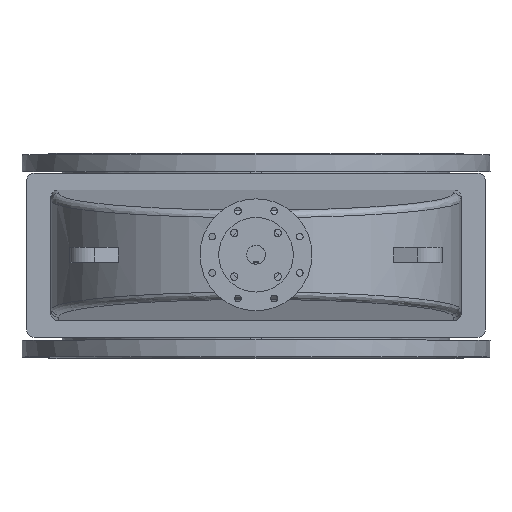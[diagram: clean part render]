
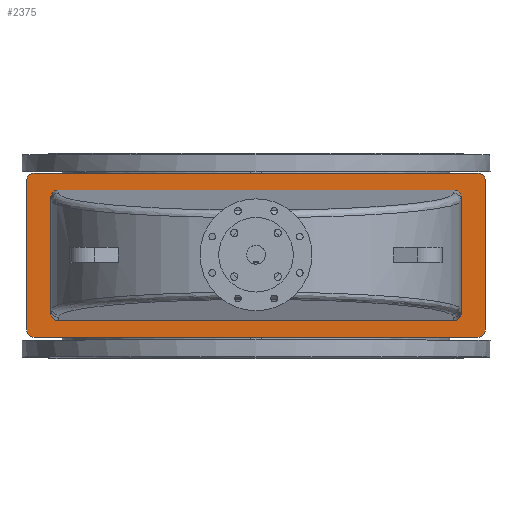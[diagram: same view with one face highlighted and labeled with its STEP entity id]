
A CAD part, top view. The second image highlights one B-rep face of the part: STEP entity #2375.
In plain terms, the highlighted planar face has unit normal (0, 0, 1).
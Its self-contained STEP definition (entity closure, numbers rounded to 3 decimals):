
#2375=ADVANCED_FACE('',(#7181,#7183),#7185,.T.);
#7181=FACE_BOUND('',#7182,.T.);
#7182=EDGE_LOOP('',(#9461,#9462,#9463,#9464,#9465,#9466,#9467,#9468));
#7183=FACE_BOUND('',#7184,.T.);
#7184=EDGE_LOOP('',(#9469,#9470,#9471,#9472,#9473,#9474,#9475,#9476));
#7185=PLANE('',#7186);
#7186=AXIS2_PLACEMENT_3D('',#7187,#7188,#7189);
#7187=CARTESIAN_POINT('',(0.,0.,1116.));
#7188=DIRECTION('',(0.,-0.,1.));
#7189=DIRECTION('',(0.,1.,0.));
#9461=ORIENTED_EDGE('',*,*,#10261,.F.);
#9462=ORIENTED_EDGE('',*,*,#10274,.T.);
#9463=ORIENTED_EDGE('',*,*,#10273,.F.);
#9464=ORIENTED_EDGE('',*,*,#10271,.T.);
#9465=ORIENTED_EDGE('',*,*,#10269,.F.);
#9466=ORIENTED_EDGE('',*,*,#10267,.T.);
#9467=ORIENTED_EDGE('',*,*,#10265,.F.);
#9468=ORIENTED_EDGE('',*,*,#10262,.T.);
#9469=ORIENTED_EDGE('',*,*,#10275,.F.);
#9470=ORIENTED_EDGE('',*,*,#10276,.F.);
#9471=ORIENTED_EDGE('',*,*,#10277,.F.);
#9472=ORIENTED_EDGE('',*,*,#10278,.F.);
#9473=ORIENTED_EDGE('',*,*,#10279,.F.);
#9474=ORIENTED_EDGE('',*,*,#10280,.F.);
#9475=ORIENTED_EDGE('',*,*,#10281,.F.);
#9476=ORIENTED_EDGE('',*,*,#10282,.F.);
#10261=EDGE_CURVE('',#11381,#11379,#11383,.F.);
#10262=EDGE_CURVE('',#11384,#11379,#11385,.T.);
#10265=EDGE_CURVE('',#11384,#11387,#11389,.F.);
#10267=EDGE_CURVE('',#11390,#11387,#11392,.T.);
#10269=EDGE_CURVE('',#11390,#11393,#11395,.F.);
#10271=EDGE_CURVE('',#11396,#11393,#11398,.T.);
#10273=EDGE_CURVE('',#11396,#11399,#11401,.F.);
#10274=EDGE_CURVE('',#11381,#11399,#11402,.T.);
#10275=EDGE_CURVE('',#11403,#11404,#11405,.F.);
#10276=EDGE_CURVE('',#11406,#11403,#11407,.T.);
#10277=EDGE_CURVE('',#11408,#11406,#11409,.T.);
#10278=EDGE_CURVE('',#11410,#11408,#11411,.T.);
#10279=EDGE_CURVE('',#11412,#11410,#11413,.F.);
#10280=EDGE_CURVE('',#11414,#11412,#11415,.T.);
#10281=EDGE_CURVE('',#11416,#11414,#11417,.T.);
#10282=EDGE_CURVE('',#11404,#11416,#11418,.T.);
#11379=VERTEX_POINT('',#14532);
#11381=VERTEX_POINT('',#14536);
#11383=CIRCLE('',#14540,20.);
#11384=VERTEX_POINT('',#14544);
#11385=LINE('',#14545,#14546);
#11387=VERTEX_POINT('',#14551);
#11389=CIRCLE('',#14555,20.);
#11390=VERTEX_POINT('',#14559);
#11392=LINE('',#14563,#14564);
#11393=VERTEX_POINT('',#14566);
#11395=CIRCLE('',#14570,20.);
#11396=VERTEX_POINT('',#14574);
#11398=LINE('',#14578,#14579);
#11399=VERTEX_POINT('',#14581);
#11401=CIRCLE('',#14585,20.);
#11402=LINE('',#14589,#14590);
#11403=VERTEX_POINT('',#14592);
#11404=VERTEX_POINT('',#14593);
#11405=(BOUNDED_CURVE()B_SPLINE_CURVE(3,
(#14594,#14595,#14596,#14597),
.UNSPECIFIED.,.F.,.F.)B_SPLINE_CURVE_WITH_KNOTS((4,4),
(0.,1.),
.UNSPECIFIED.)CURVE()GEOMETRIC_REPRESENTATION_ITEM()RATIONAL_B_SPLINE_CURVE((1.,
0.805,0.805,1.))REPRESENTATION_ITEM(''));
#11406=VERTEX_POINT('',#14598);
#11407=LINE('',#14599,#14600);
#11408=VERTEX_POINT('',#14602);
#11409=(BOUNDED_CURVE()B_SPLINE_CURVE(3,
(#14603,#14604,#14605,#14606),
.UNSPECIFIED.,.F.,.F.)B_SPLINE_CURVE_WITH_KNOTS((4,4),
(0.,1.),
.UNSPECIFIED.)CURVE()GEOMETRIC_REPRESENTATION_ITEM()RATIONAL_B_SPLINE_CURVE((1.,
0.805,0.805,1.))REPRESENTATION_ITEM(''));
#11410=VERTEX_POINT('',#14607);
#11411=LINE('',#14608,#14609);
#11412=VERTEX_POINT('',#14611);
#11413=(BOUNDED_CURVE()B_SPLINE_CURVE(3,
(#14612,#14613,#14614,#14615),
.UNSPECIFIED.,.F.,.F.)B_SPLINE_CURVE_WITH_KNOTS((4,4),
(0.,1.),
.UNSPECIFIED.)CURVE()GEOMETRIC_REPRESENTATION_ITEM()RATIONAL_B_SPLINE_CURVE((1.,
0.805,0.805,1.))REPRESENTATION_ITEM(''));
#11414=VERTEX_POINT('',#14616);
#11415=LINE('',#14617,#14618);
#11416=VERTEX_POINT('',#14620);
#11417=(BOUNDED_CURVE()B_SPLINE_CURVE(3,
(#14621,#14622,#14623,#14624),
.UNSPECIFIED.,.F.,.F.)B_SPLINE_CURVE_WITH_KNOTS((4,4),
(0.,1.),
.UNSPECIFIED.)CURVE()GEOMETRIC_REPRESENTATION_ITEM()RATIONAL_B_SPLINE_CURVE((1.,
0.805,0.805,1.))REPRESENTATION_ITEM(''));
#11418=LINE('',#14625,#14626);
#14532=CARTESIAN_POINT('',(-615.,-200.,1116.));
#14536=CARTESIAN_POINT('',(-595.,-220.,1116.));
#14540=AXIS2_PLACEMENT_3D('',#14541,#14542,#14543);
#14541=CARTESIAN_POINT('',(-595.,-200.,1116.));
#14542=DIRECTION('',(0.,-0.,1.));
#14543=DIRECTION('',(-1.,0.,0.));
#14544=CARTESIAN_POINT('',(-615.,200.,1116.));
#14545=CARTESIAN_POINT('',(-615.,200.,1116.));
#14546=VECTOR('',#14547,1.);
#14547=DIRECTION('',(0.,-1.,0.));
#14551=CARTESIAN_POINT('',(-595.,220.,1116.));
#14555=AXIS2_PLACEMENT_3D('',#14556,#14557,#14558);
#14556=CARTESIAN_POINT('',(-595.,200.,1116.));
#14557=DIRECTION('',(0.,-0.,1.));
#14558=DIRECTION('',(0.,1.,0.));
#14559=CARTESIAN_POINT('',(595.,220.,1116.));
#14563=CARTESIAN_POINT('',(595.,220.,1116.));
#14564=VECTOR('',#14565,1.);
#14565=DIRECTION('',(-1.,0.,0.));
#14566=CARTESIAN_POINT('',(615.,200.,1116.));
#14570=AXIS2_PLACEMENT_3D('',#14571,#14572,#14573);
#14571=CARTESIAN_POINT('',(595.,200.,1116.));
#14572=DIRECTION('',(0.,-0.,1.));
#14573=DIRECTION('',(1.,0.,0.));
#14574=CARTESIAN_POINT('',(615.,-200.,1116.));
#14578=CARTESIAN_POINT('',(615.,-200.,1116.));
#14579=VECTOR('',#14580,1.);
#14580=DIRECTION('',(0.,1.,0.));
#14581=CARTESIAN_POINT('',(595.,-220.,1116.));
#14585=AXIS2_PLACEMENT_3D('',#14586,#14587,#14588);
#14586=CARTESIAN_POINT('',(595.,-200.,1116.));
#14587=DIRECTION('',(0.,-0.,1.));
#14588=DIRECTION('',(0.,-1.,0.));
#14589=CARTESIAN_POINT('',(-595.,-220.,1116.));
#14590=VECTOR('',#14591,1.);
#14591=DIRECTION('',(1.,0.,0.));
#14592=CARTESIAN_POINT('',(530.,-175.,1116.));
#14593=CARTESIAN_POINT('',(550.,-154.924,1116.));
#14594=CARTESIAN_POINT('',(550.,-154.924,1116.));
#14595=CARTESIAN_POINT('',(550.,-166.684,1116.));
#14596=CARTESIAN_POINT('',(541.716,-175.,1116.));
#14597=CARTESIAN_POINT('',(530.,-175.,1116.));
#14598=CARTESIAN_POINT('',(-530.,-175.,1116.));
#14599=CARTESIAN_POINT('',(-530.,-175.,1116.));
#14600=VECTOR('',#14601,1.);
#14601=DIRECTION('',(1.,0.,0.));
#14602=CARTESIAN_POINT('',(-550.,-154.924,1116.));
#14603=CARTESIAN_POINT('',(-550.,-154.924,1116.));
#14604=CARTESIAN_POINT('',(-550.,-166.684,1116.));
#14605=CARTESIAN_POINT('',(-541.716,-175.,1116.));
#14606=CARTESIAN_POINT('',(-530.,-175.,1116.));
#14607=CARTESIAN_POINT('',(-550.,154.924,1116.));
#14608=CARTESIAN_POINT('',(-550.,154.924,1116.));
#14609=VECTOR('',#14610,1.);
#14610=DIRECTION('',(0.,-1.,0.));
#14611=CARTESIAN_POINT('',(-530.,175.,1116.));
#14612=CARTESIAN_POINT('',(-550.,154.924,1116.));
#14613=CARTESIAN_POINT('',(-550.,166.684,1116.));
#14614=CARTESIAN_POINT('',(-541.716,175.,1116.));
#14615=CARTESIAN_POINT('',(-530.,175.,1116.));
#14616=CARTESIAN_POINT('',(530.,175.,1116.));
#14617=CARTESIAN_POINT('',(530.,175.,1116.));
#14618=VECTOR('',#14619,1.);
#14619=DIRECTION('',(-1.,0.,0.));
#14620=CARTESIAN_POINT('',(550.,154.924,1116.));
#14621=CARTESIAN_POINT('',(550.,154.924,1116.));
#14622=CARTESIAN_POINT('',(550.,166.684,1116.));
#14623=CARTESIAN_POINT('',(541.716,175.,1116.));
#14624=CARTESIAN_POINT('',(530.,175.,1116.));
#14625=CARTESIAN_POINT('',(550.,-154.924,1116.));
#14626=VECTOR('',#14627,1.);
#14627=DIRECTION('',(0.,1.,0.));
